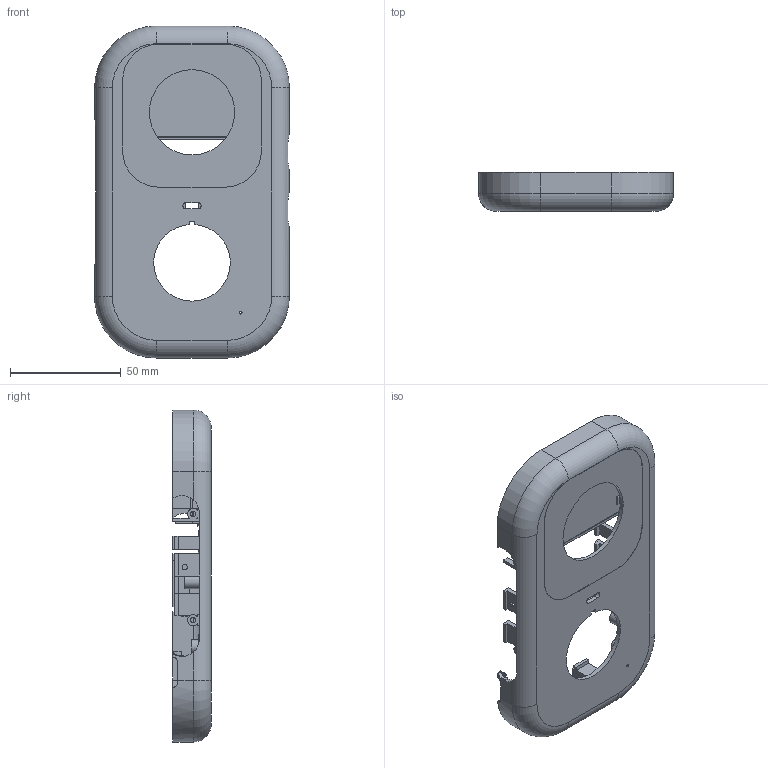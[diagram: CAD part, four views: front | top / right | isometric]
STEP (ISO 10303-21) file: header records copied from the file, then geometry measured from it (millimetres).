
FILE_DESCRIPTION(('Open CASCADE Model'),'2;1');
FILE_NAME('front_chassis_PA12','2026-09-08T13:43:14',('Author'),( 'Open CASCADE'),'Open CASCADE STEP processor 7.8','build123d', 'Unknown');
FILE_SCHEMA(('AUTOMOTIVE_DESIGN { 1 0 10303 214 1 1 1 1 }'));
Length unit declared in the file: millimetre
Products named in the file (2): =>[0:1:1:2]; front_chassis_PA12
Assembly tree (1 placements, depth 2):
  =>[0:1:1:2]
    front_chassis_PA12
Bounding box: 88 x 17.4 x 150 mm (x, y, z)
Volume: 43185.1 mm3; surface area: 44186.6 mm2
Topology: 1 solids, 1 shells, 379 faces, 998 edges, 655 vertices
Faces by surface type: plane 279, cylinder 86, torus 12, sphere 2
Full cylindrical faces by diameter (mm): 1.2 x1, 2.4 x3, 3.2 x14, 6.4 x6, 7.2 x4, 38.5 x1
Entity records: 28077 total; most frequent: CARTESIAN_POINT 8259, DIRECTION 3607, LINE 2345, VECTOR 2345, ORIENTED_EDGE 1994, PCURVE 1994, DEFINITIONAL_REPRESENTATION 1994, EDGE_CURVE 997
